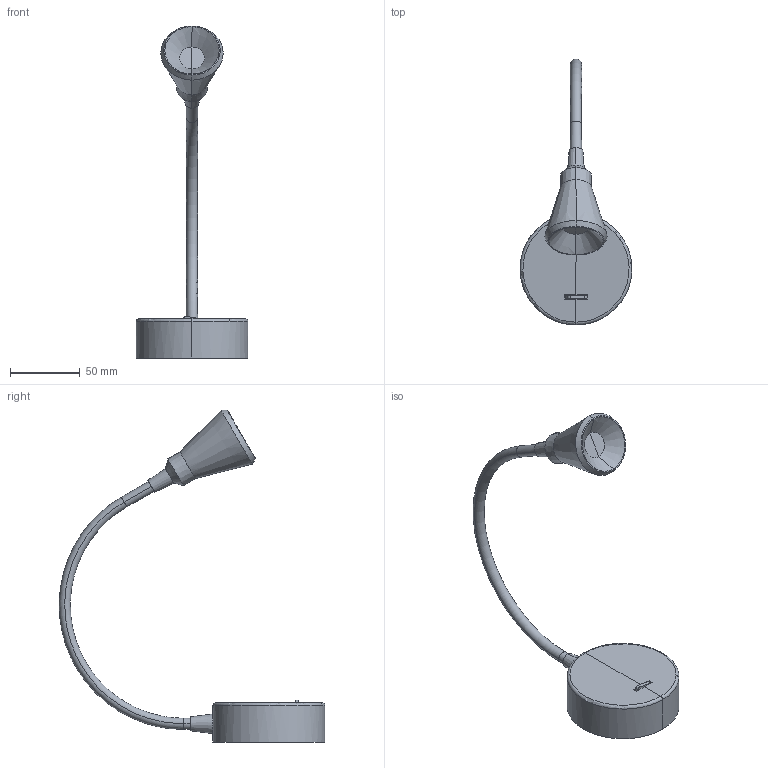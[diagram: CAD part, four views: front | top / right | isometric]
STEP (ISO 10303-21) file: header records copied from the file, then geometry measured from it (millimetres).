
FILE_DESCRIPTION(/* description */ (''),/* implementation_level */ '2;1');
FILE_NAME(/* name */ 'C:\Users\FrancoSartori\Documents\FARO\01_En Proceso\00_BEL\03_Publicación\41028.stp',/* time_stamp */ '2021-04-01T11:02:11+02:00',/* author */ ('FrancoSartori'),/* organization */ (''),/* preprocessor_version */ 'ST-DEVELOPER v18.1',/* originating_system */ 'AutoCAD Mechanical',/* authorisation */ '');
FILE_SCHEMA (('AUTOMOTIVE_DESIGN { 1 0 10303 214 3 1 1 }'));
Length unit declared in the file: millimetre
Products named in the file (2): Product; BEL - lamp-508840-Export
Assembly tree (1 placements, depth 2):
  Product
    BEL - lamp-508840-Export
Bounding box: 80 x 189.97 x 237.42 mm (x, y, z)
Volume: 71078.4 mm3; surface area: 44968.7 mm2
Topology: 7 solids, 7 shells, 102 faces, 250 edges, 154 vertices
Faces by surface type: plane 46, cylinder 30, cone 14, torus 8, bspline 4
Entity records: 3436 total; most frequent: CARTESIAN_POINT 1027, ORIENTED_EDGE 500, DIRECTION 474, EDGE_CURVE 250, AXIS2_PLACEMENT_3D 175, VERTEX_POINT 154, LINE 124, VECTOR 124
